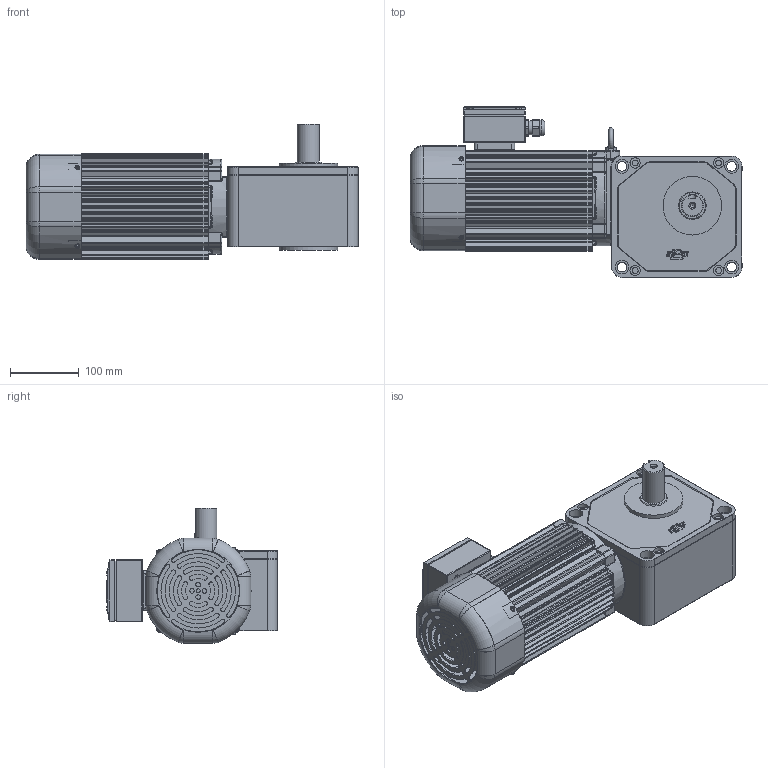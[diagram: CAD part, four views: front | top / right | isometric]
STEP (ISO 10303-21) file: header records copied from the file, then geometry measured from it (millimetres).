
FILE_DESCRIPTION(/* description */ (''),/* implementation_level */ '2;1');
FILE_NAME(/* name */ 'Z:\동력 3D 파일\PCS32L_0.75kW_Brake_3D.stp',/* time_stamp */ '2021-11-09T11:51:50+09:00',/* author */ ('jaebok'),/* organization */ (''),/* preprocessor_version */ 'ST-DEVELOPER v18.1',/* originating_system */ 'Autodesk Inventor 2022',/* authorisation */ '');
FILE_SCHEMA (('AUTOMOTIVE_DESIGN { 1 0 10303 214 3 1 1 }'));
Products named in the file (1): 부품63
Bounding box: 481.5 x 248 x 197 mm (x, y, z)
Volume: 3317211.1 mm3; surface area: 798406.4 mm2
Topology: 1 solids, 26 shells, 1998 faces, 5221 edges, 3288 vertices
Faces by surface type: plane 916, cylinder 771, torus 125, bspline 114, cone 56, sphere 16
Full cylindrical faces by diameter (mm): 3.25 x1, 3.6 x4, 4 x18, 5 x13, 6 x5, 6.647 x2, 7 x13, 8 x5, 8.5 x4, 10 x1, 12.5 x1, 14 x4, 15 x5, 20 x14, 20.6 x1, 21 x1, 23.6 x1, 25 x1, 32 x1, 40 x2, 54.5 x1, 68 x1, 72 x2, 85 x2, 119 x1, 122 x1, 125 x1, 128 x1, 131 x4
Entity records: 67379 total; most frequent: CARTESIAN_POINT 15692, DIRECTION 10790, ORIENTED_EDGE 10376, EDGE_CURVE 5188, AXIS2_PLACEMENT_3D 4045, VERTEX_POINT 3288, LINE 2700, VECTOR 2700
